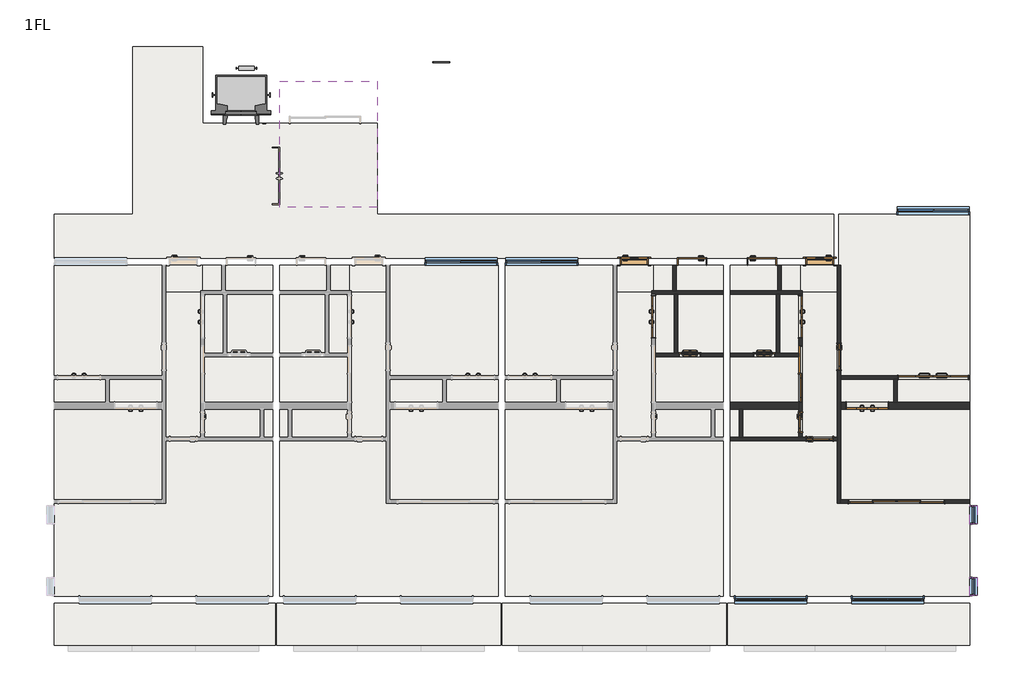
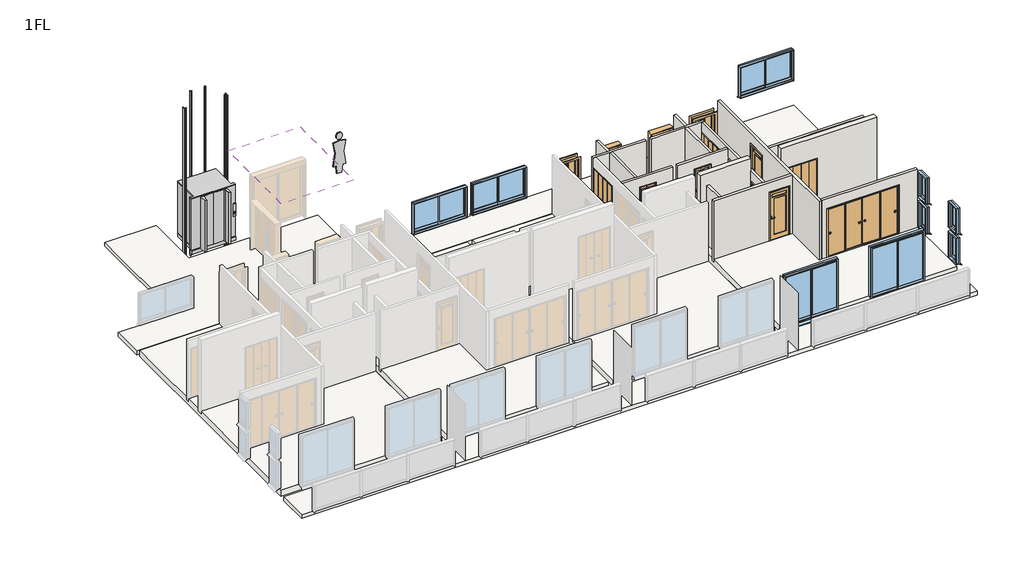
# One storey, part 3 of 3: 17 walls, 15 doors, 14 slabs, 9 windows, 2 proxies, 1 roof.
"""IFC4 building model written with IfcOpenShell, lengths in millimetres."""

from ifc_helpers import new_model, si_unit, frame, origin, place, context, project, spatial, polyline, outline, extrude, faceted_brep, transform, mapped, element, save
from components import entourage_8370d26b, mechanical_equipment_3dd84d69, door_800x2000_a7d1584b, door_800x2000_010bfebf, w1200h2000_6a144d60, w1200h2000_99d19fb3, w1200h2000_ebe1d490, w1600h2000_ca690e72, w2000h2000_5dbb6d6a, w2800h2000_04aa64cd, w600h2000_6a266bef, w600h2000_94bb9c3c, w600h2000_8ea70a65, w800h2000_1d97c4d4, w800h2000_13e9f519, w800h2000_ccb03061, w800h2000_0ab7d42c, window_2000x1200_fc91d1cf, window_2000x2000_f1ff98da, window_450x1000_1cddc73c

model = new_model("IFC4")

# Units and contexts
model_context = context("Model", 3, world=origin())
ifc_project = project(units=[si_unit("LENGTHUNIT", "METRE", prefix="MILLI")], contexts=[model_context])

# Site, building, storey
site = spatial("IfcSite", under=ifc_project)
building = spatial("IfcBuilding", under=site)
storey = spatial("IfcBuildingStorey", under=building, Name="1FL", Elevation=1000.0)

# Proxies
placement = place(None, origin())
entourage_shape = entourage_8370d26b(model_context)
element("IfcBuildingElementProxy", 1, Name="M_RPC 女性 : Cynthia", ObjectType="M_RPC 女性 : Cynthia", at=placement, inside=storey, context=model_context, shape_type="MappedRepresentation", body=[
    mapped(entourage_shape, transform((0.0, 0.0, 1000.0), x_axis=(1.0, 0.0, 0.0), y_axis=(0.0, 1.0, 0.0), z_axis=(0.0, 0.0, 1.0))),
])
mechanical_equipment_shape = mechanical_equipment_3dd84d69(model_context)
element("IfcBuildingElementProxy", 2, Name="エレベーター一般1 : 6人乗", ObjectType="エレベーター一般1 : 6人乗", at=placement, inside=storey, context=model_context, shape_type="MappedRepresentation", body=[
    mapped(mechanical_equipment_shape, transform((-5728.7187246, -1650.1171638, 1000.0), x_axis=(1.0, 0.0, 0.0), y_axis=(0.0, 1.0, 0.0), z_axis=(0.0, 0.0, 1.0))),
])

# Doors
door_800x2000_shape = door_800x2000_a7d1584b(model_context)
element("IfcDoor", 3, ObjectType="片開き3 : 800x2000", at=placement, inside=storey, context=model_context, shape_type="MappedRepresentation", body=[
    mapped(door_800x2000_shape, transform((5521.2812754, -5700.1171638, 1000.0), x_axis=(1.0, 0.0, 0.0), y_axis=(0.0, 1.0, 0.0), z_axis=(0.0, 0.0, 1.0))),
])
door_800x2000_2_shape = door_800x2000_010bfebf(model_context)
element("IfcDoor", 4, ObjectType="片開き3 : 800x2000", at=placement, inside=storey, context=model_context, shape_type="MappedRepresentation", body=[
    mapped(door_800x2000_2_shape, transform((10821.2812754, -5700.1171638, 1000.0), x_axis=(-1.0, 0.0, 0.0), y_axis=(0.0, -1.0, 0.0), z_axis=(0.0, 0.0, 1.0))),
])
w1200h2000_shape = w1200h2000_6a144d60(model_context)
element("IfcDoor", 5, ObjectType="木製折戸 : w1200h2000", at=placement, inside=storey, context=model_context, shape_type="MappedRepresentation", body=[
    mapped(w1200h2000_shape, transform((6071.2812754, -7280.1171638, 1100.0), x_axis=(0.0, 1.0, 0.0), y_axis=(-1.0, 0.0, 0.0), z_axis=(0.0, 0.0, 1.0))),
])
w1200h2000_2_shape = w1200h2000_99d19fb3(model_context)
element("IfcDoor", 6, ObjectType="木製折戸 : w1200h2000", at=placement, inside=storey, context=model_context, shape_type="MappedRepresentation", body=[
    mapped(w1200h2000_2_shape, transform((10271.2812754, -7280.1171638, 1100.0), x_axis=(0.0, 1.0, 0.0), y_axis=(-1.0, 0.0, 0.0), z_axis=(0.0, 0.0, 1.0))),
])
w1200h2000_3_shape = w1200h2000_ebe1d490(model_context)
element("IfcDoor", 7, ObjectType="木製折戸 : w1200h2000", at=placement, inside=storey, context=model_context, shape_type="MappedRepresentation", body=[
    mapped(w1200h2000_3_shape, transform((12183.7812754, -9820.1171638, 1100.0), x_axis=(1.0, 0.0, 0.0), y_axis=(0.0, 1.0, 0.0), z_axis=(0.0, 0.0, 1.0))),
])
w1600h2000_shape = w1600h2000_ca690e72(model_context)
element("IfcDoor", 8, ObjectType="片引戸CL2017 : w1600h2000", at=placement, inside=storey, context=model_context, shape_type="MappedRepresentation", body=[
    mapped(w1600h2000_shape, transform((10271.2812754, -8920.1171638, 1100.0), x_axis=(0.0, -1.0, 0.0), y_axis=(1.0, 0.0, 0.0), z_axis=(0.0, 0.0, 1.0))),
])
w2000h2000_shape = w2000h2000_5dbb6d6a(model_context)
element("IfcDoor", 9, ObjectType="木製折戸 : w2000h2000", at=placement, inside=storey, context=model_context, shape_type="MappedRepresentation", body=[
    mapped(w2000h2000_shape, transform((14066.2812754, -9020.1171638, 1100.0), x_axis=(-1.0, 0.0, 0.0), y_axis=(0.0, -1.0, 0.0), z_axis=(0.0, 0.0, 1.0))),
])
w2800h2000_shape = w2800h2000_04aa64cd(model_context)
element("IfcDoor", 10, ObjectType="引違い 4 枚 2 溝_襖 : w2800h2000", at=placement, inside=storey, context=model_context, shape_type="MappedRepresentation", body=[
    mapped(w2800h2000_shape, transform((13026.8167793, -12570.1171638, 1100.0), x_axis=(1.0, 0.0, 0.0), y_axis=(0.0, 1.0, 0.0), z_axis=(0.0, 0.0, 1.0))),
])
w600h2000_shape = w600h2000_6a266bef(model_context)
element("IfcDoor", 11, ObjectType="浴室折戸 : w600h2000", at=placement, inside=storey, context=model_context, shape_type="MappedRepresentation", body=[
    mapped(w600h2000_shape, transform((7111.2812754, -8370.1171638, 1100.0), x_axis=(1.0, 0.0, 0.0), y_axis=(0.0, 1.0, 0.0), z_axis=(0.0, 0.0, 1.0))),
])
w600h2000_2_shape = w600h2000_94bb9c3c(model_context)
element("IfcDoor", 12, ObjectType="浴室折戸 : w600h2000", at=placement, inside=storey, context=model_context, shape_type="MappedRepresentation", body=[
    mapped(w600h2000_2_shape, transform((9231.2812754, -8370.1171638, 1100.0), x_axis=(-1.0, 0.0, 0.0), y_axis=(0.0, -1.0, 0.0), z_axis=(0.0, 0.0, 1.0))),
])
w600h2000_3_shape = w600h2000_8ea70a65(model_context)
element("IfcDoor", 13, ObjectType="片開戸CL2058 : w600h2000", at=placement, inside=storey, context=model_context, shape_type="MappedRepresentation", body=[
    mapped(w600h2000_3_shape, transform((10271.2812754, -10295.1171638, 1100.0), x_axis=(0.0, -1.0, 0.0), y_axis=(1.0, 0.0, 0.0), z_axis=(0.0, 0.0, 1.0))),
])
w800h2000_shape = w800h2000_1d97c4d4(model_context)
element("IfcDoor", 14, ObjectType="片開 : w800h2000", at=placement, inside=storey, context=model_context, shape_type="MappedRepresentation", body=[
    mapped(w800h2000_shape, transform((7171.2812754, -5700.1171638, 1000.0), x_axis=(-1.0, 0.0, 0.0), y_axis=(0.0, -1.0, 0.0), z_axis=(0.0, 0.0, 1.0))),
])
w800h2000_2_shape = w800h2000_13e9f519(model_context)
element("IfcDoor", 15, ObjectType="片開戸CL2058 : w800h2000", at=placement, inside=storey, context=model_context, shape_type="MappedRepresentation", body=[
    mapped(w800h2000_2_shape, transform((10821.2812754, -10770.1171638, 1100.0), x_axis=(1.0, 0.0, 0.0), y_axis=(0.0, 1.0, 0.0), z_axis=(0.0, 0.0, 1.0))),
])
w800h2000_3_shape = w800h2000_ccb03061(model_context)
element("IfcDoor", 16, ObjectType="片開戸CL2058 : w800h2000", at=placement, inside=storey, context=model_context, shape_type="MappedRepresentation", body=[
    mapped(w800h2000_3_shape, transform((11371.2812754, -8420.1171638, 1100.0), x_axis=(0.0, -1.0, 0.0), y_axis=(1.0, 0.0, 0.0), z_axis=(0.0, 0.0, 1.0))),
])
w800h2000_4_shape = w800h2000_0ab7d42c(model_context)
element("IfcDoor", 17, ObjectType="片開 : w800h2000", at=placement, inside=storey, context=model_context, shape_type="MappedRepresentation", body=[
    mapped(w800h2000_4_shape, transform((9171.2812754, -5700.1171638, 1000.0), x_axis=(1.0, 0.0, 0.0), y_axis=(0.0, 1.0, 0.0), z_axis=(0.0, 0.0, 1.0))),
])

# Roof
element("IfcRoof", 18, ObjectType="RC150", at=placement, inside=storey, context=model_context, shape_type="SweptSolid", body=[
    extrude(outline(polyline([(-1828.7187246, -4150.1171638), (-4628.7187246, -4150.1171638), (-4628.7187246, -550.1171638), (-1828.7187246, -550.1171638), (-1828.7187246, -4150.1171638)])), frame((0.0, 0.0, 3850.0), z_axis=(0.0, 0.0, 1.0), x_axis=(1.0, 0.0, 0.0)), (0.0, 0.0, 1.0), 150.0),
])

# Slabs
element("IfcSlab", 19, ObjectType="RC150＋100", at=placement, inside=storey, context=model_context, shape_type="SweptSolid", body=[
    extrude(outline(polyline([(-4828.7187246, -15270.1171638), (-11078.7187246, -15270.1171638), (-11078.7187246, -5800.1171638), (-7928.7187246, -5800.1171638), (-7928.7187246, -6580.1171638), (-6828.7187246, -6580.1171638), (-6828.7187246, -5800.1171638), (-4828.7187246, -5800.1171638), (-4828.7187246, -6580.1171638), (-6188.7187246, -6580.1171638), (-6188.7187246, -8370.1171638), (-4828.7187246, -8370.1171638), (-4828.7187246, -15270.1171638)])), frame((0.0, 0.0, 850.0), z_axis=(0.0, 0.0, 1.0), x_axis=(1.0, 0.0, 0.0)), (0.0, 0.0, 1.0), 250.0),
])
element("IfcSlab", 20, ObjectType="RC150＋100", at=placement, inside=storey, context=model_context, shape_type="SweptSolid", body=[
    extrude(outline(polyline([(-4628.7187246, -15270.1171638), (-4628.7187246, -8370.1171638), (-3268.7187246, -8370.1171638), (-3268.7187246, -6580.1171638), (-4628.7187246, -6580.1171638), (-4628.7187246, -5800.1171638), (-2628.7187246, -5800.1171638), (-2628.7187246, -6580.1171638), (-1528.7187246, -6580.1171638), (-1528.7187246, -5800.1171638), (1621.2812754, -5800.1171638), (1621.2812754, -15270.1171638), (-4628.7187246, -15270.1171638)])), frame((0.0, 0.0, 850.0), z_axis=(0.0, 0.0, 1.0), x_axis=(1.0, 0.0, 0.0)), (0.0, 0.0, 1.0), 250.0),
])
element("IfcSlab", 21, ObjectType="RC150＋100", at=placement, inside=storey, context=model_context, shape_type="SweptSolid", body=[
    extrude(outline(polyline([(8071.2812754, -15270.1171638), (1821.2812754, -15270.1171638), (1821.2812754, -5800.1171638), (4971.2812754, -5800.1171638), (4971.2812754, -6580.1171638), (6071.2812754, -6580.1171638), (6071.2812754, -5800.1171638), (8071.2812754, -5800.1171638), (8071.2812754, -6580.1171638), (6711.2812754, -6580.1171638), (6711.2812754, -8370.1171638), (8071.2812754, -8370.1171638), (8071.2812754, -15270.1171638)])), frame((0.0, 0.0, 850.0), z_axis=(0.0, 0.0, 1.0), x_axis=(1.0, 0.0, 0.0)), (0.0, 0.0, 1.0), 250.0),
])
element("IfcSlab", 22, ObjectType="RC150＋100", at=placement, inside=storey, context=model_context, shape_type="SweptSolid", body=[
    extrude(outline(polyline([(8271.2812754, -15270.1171638), (8271.2812754, -8370.1171638), (9631.2812754, -8370.1171638), (9631.2812754, -6580.1171638), (8271.2812754, -6580.1171638), (8271.2812754, -5800.1171638), (10271.2812754, -5800.1171638), (10271.2812754, -6580.1171638), (11371.2812754, -6580.1171638), (11371.2812754, -4350.1171638), (15121.2812754, -4350.1171638), (15121.2812754, -15270.1171638), (8271.2812754, -15270.1171638)])), frame((0.0, 0.0, 850.0), z_axis=(0.0, 0.0, 1.0), x_axis=(1.0, 0.0, 0.0)), (0.0, 0.0, 1.0), 250.0),
])
element("IfcSlab", 23, ObjectType="RC150", at=placement, inside=storey, context=model_context, shape_type="SweptSolid", body=[
    extrude(outline(polyline([(-4828.7187246, -8370.1171638), (-6188.7187246, -8370.1171638), (-6188.7187246, -6580.1171638), (-4828.7187246, -6580.1171638), (-4828.7187246, -8370.1171638)])), frame((0.0, 0.0, 850.0), z_axis=(0.0, 0.0, 1.0), x_axis=(1.0, 0.0, 0.0)), (0.0, 0.0, 1.0), 150.0),
])
element("IfcSlab", 24, ObjectType="RC150", at=placement, inside=storey, context=model_context, shape_type="SweptSolid", body=[
    extrude(outline(polyline([(-6828.7187246, -6580.1171638), (-7928.7187246, -6580.1171638), (-7928.7187246, -5800.1171638), (-6828.7187246, -5800.1171638), (-6828.7187246, -6580.1171638)])), frame((0.0, 0.0, 800.0), z_axis=(0.0, 0.0, 1.0), x_axis=(1.0, 0.0, 0.0)), (0.0, 0.0, 1.0), 150.0),
])
element("IfcSlab", 25, ObjectType="RC150", at=placement, inside=storey, context=model_context, shape_type="SweptSolid", body=[
    extrude(outline(polyline([(-4628.7187246, -8370.1171638), (-4628.7187246, -6580.1171638), (-3268.7187246, -6580.1171638), (-3268.7187246, -8370.1171638), (-4628.7187246, -8370.1171638)])), frame((0.0, 0.0, 850.0), z_axis=(0.0, 0.0, 1.0), x_axis=(1.0, 0.0, 0.0)), (0.0, 0.0, 1.0), 150.0),
])
element("IfcSlab", 26, ObjectType="RC150", at=placement, inside=storey, context=model_context, shape_type="SweptSolid", body=[
    extrude(outline(polyline([(-2628.7187246, -6580.1171638), (-2628.7187246, -5800.1171638), (-1528.7187246, -5800.1171638), (-1528.7187246, -6580.1171638), (-2628.7187246, -6580.1171638)])), frame((0.0, 0.0, 800.0), z_axis=(0.0, 0.0, 1.0), x_axis=(1.0, 0.0, 0.0)), (0.0, 0.0, 1.0), 150.0),
])
element("IfcSlab", 27, ObjectType="RC150", at=placement, inside=storey, context=model_context, shape_type="SweptSolid", body=[
    extrude(outline(polyline([(8071.2812754, -8370.1171638), (6711.2812754, -8370.1171638), (6711.2812754, -6580.1171638), (8071.2812754, -6580.1171638), (8071.2812754, -8370.1171638)])), frame((0.0, 0.0, 850.0), z_axis=(0.0, 0.0, 1.0), x_axis=(1.0, 0.0, 0.0)), (0.0, 0.0, 1.0), 150.0),
])
element("IfcSlab", 28, ObjectType="RC150", at=placement, inside=storey, context=model_context, shape_type="SweptSolid", body=[
    extrude(outline(polyline([(6071.2812754, -6580.1171638), (4971.2812754, -6580.1171638), (4971.2812754, -5800.1171638), (6071.2812754, -5800.1171638), (6071.2812754, -6580.1171638)])), frame((0.0, 0.0, 800.0), z_axis=(0.0, 0.0, 1.0), x_axis=(1.0, 0.0, 0.0)), (0.0, 0.0, 1.0), 150.0),
])
element("IfcSlab", 29, ObjectType="RC150", at=placement, inside=storey, context=model_context, shape_type="SweptSolid", body=[
    extrude(outline(polyline([(8271.2812754, -8370.1171638), (8271.2812754, -6580.1171638), (9631.2812754, -6580.1171638), (9631.2812754, -8370.1171638), (8271.2812754, -8370.1171638)])), frame((0.0, 0.0, 850.0), z_axis=(0.0, 0.0, 1.0), x_axis=(1.0, 0.0, 0.0)), (0.0, 0.0, 1.0), 150.0),
])
element("IfcSlab", 30, ObjectType="RC150", at=placement, inside=storey, context=model_context, shape_type="SweptSolid", body=[
    extrude(outline(polyline([(10271.2812754, -6580.1171638), (10271.2812754, -5800.1171638), (11371.2812754, -5800.1171638), (11371.2812754, -6580.1171638), (10271.2812754, -6580.1171638)])), frame((0.0, 0.0, 800.0), z_axis=(0.0, 0.0, 1.0), x_axis=(1.0, 0.0, 0.0)), (0.0, 0.0, 1.0), 150.0),
])
element("IfcSlab", 31, ObjectType="RC150", at=placement, inside=storey, context=model_context, shape_type="SweptSolid", body=[
    extrude(outline(polyline([(-8828.7187246, -4350.1171638), (-8828.7187246, 449.8828362), (-6828.7187246, 449.8828362), (-6828.7187246, -1750.1171638), (-1828.7187246, -1750.1171638), (-1828.7187246, -4350.1171638), (11221.2812754, -4350.1171638), (11221.2812754, -5600.1171638), (-11078.7187246, -5600.1171638), (-11078.7187246, -4350.1171638), (-8828.7187246, -4350.1171638)])), frame((0.0, 0.0, 800.0), z_axis=(0.0, 0.0, 1.0), x_axis=(1.0, 0.0, 0.0)), (0.0, 0.0, 1.0), 150.0),
])
element("IfcSlab", 32, ObjectType="RC150", at=placement, inside=storey, context=model_context, shape_type="SweptSolid", body=[
    extrude(outline(polyline([(15121.2812754, -15470.1171638), (15121.2812754, -16670.1171638), (-11078.7187246, -16670.1171638), (-11078.7187246, -15470.1171638), (15121.2812754, -15470.1171638)])), frame((0.0, 0.0, 800.0), z_axis=(0.0, 0.0, 1.0), x_axis=(1.0, 0.0, 0.0)), (0.0, 0.0, 1.0), 150.0),
])

# Walls
element("IfcWall", 33, ObjectType="(R)RC200", at=placement, inside=storey, context=model_context, shape_type="Brep", body=[
    faceted_brep([(15121.2812754, -9720.1171638, 1000.0), (13046.2812754, -9720.1171638, 1000.0), (12946.2812754, -9720.1171638, 1000.0), (11421.2812754, -9720.1171638, 1000.0), (11421.2812754, -9720.1171638, 4000.0), (15121.2812754, -9720.1171638, 4000.0), (12803.7812754, -9720.1171638, 3120.0), (11563.7812754, -9720.1171638, 3120.0), (11563.7812754, -9720.1171638, 1100.0), (12803.7812754, -9720.1171638, 1100.0), (15121.2812754, -9920.1171638, 1000.0), (15121.2812754, -9920.1171638, 4000.0), (11421.2812754, -9920.1171638, 4000.0), (11421.2812754, -9920.1171638, 1000.0), (12803.7812754, -9920.1171638, 3120.0), (12803.7812754, -9920.1171638, 1100.0), (11563.7812754, -9920.1171638, 1100.0), (11563.7812754, -9920.1171638, 3120.0)], [[[0, 1, 2, 3, 4, 5], [6, 7, 8, 9]], [[10, 11, 12, 13], [14, 15, 16, 17]], [[3, 2, 1, 0, 10, 13]], [[5, 4, 12, 11]], [[4, 3, 13, 12]], [[15, 14, 6, 9]], [[16, 15, 9, 8]], [[17, 16, 8, 7]], [[14, 17, 7, 6]], [[0, 5, 11, 10]]]),
])
element("IfcWall", 34, ObjectType="(R)RC200", at=placement, inside=storey, context=model_context, shape_type="Brep", body=[
    faceted_brep([(10221.2812754, -9720.1171638, 1000.0), (8271.2812754, -9720.1171638, 1000.0), (8271.2812754, -9720.1171638, 4000.0), (10221.2812754, -9720.1171638, 4000.0), (10221.2812754, -9920.1171638, 1000.0), (10221.2812754, -9920.1171638, 4000.0), (8271.2812754, -9920.1171638, 4000.0), (8271.2812754, -9920.1171638, 1000.0), (8521.2812754, -9920.1171638, 1000.0), (8621.2812754, -9920.1171638, 1000.0)], [[[0, 1, 2, 3]], [[4, 5, 6, 7, 8, 9]], [[1, 0, 4, 9, 8, 7]], [[3, 2, 6, 5]], [[0, 3, 5, 4]], [[2, 1, 7, 6]]]),
])
element("IfcWall", 35, ObjectType="(L1)LGS100", at=placement, inside=storey, context=model_context, shape_type="Brep", body=[
    faceted_brep([(6121.2812754, -8420.1171638, 1000.0), (8071.2812754, -8420.1171638, 1000.0), (8071.2812754, -8420.1171638, 3500.0), (6121.2812754, -8420.1171638, 3500.0), (7431.2812754, -8420.1171638, 3120.0), (7431.2812754, -8420.1171638, 1100.0), (6791.2812754, -8420.1171638, 1100.0), (6791.2812754, -8420.1171638, 3120.0), (6121.2812754, -8320.1171638, 1000.0), (6121.2812754, -8320.1171638, 3500.0), (6661.2812754, -8320.1171638, 3500.0), (6761.2812754, -8320.1171638, 3500.0), (8071.2812754, -8320.1171638, 3500.0), (8071.2812754, -8320.1171638, 1000.0), (6761.2812754, -8320.1171638, 1000.0), (6661.2812754, -8320.1171638, 1000.0), (7431.2812754, -8320.1171638, 3120.0), (6791.2812754, -8320.1171638, 3120.0), (6791.2812754, -8320.1171638, 1100.0), (7431.2812754, -8320.1171638, 1100.0)], [[[0, 1, 2, 3], [4, 5, 6, 7]], [[8, 9, 10, 11, 12, 13, 14, 15], [16, 17, 18, 19]], [[1, 0, 8, 15, 14, 13]], [[3, 2, 12, 11, 10, 9]], [[0, 3, 9, 8]], [[5, 4, 16, 19]], [[6, 5, 19, 18]], [[7, 6, 18, 17]], [[4, 7, 17, 16]], [[2, 1, 13, 12]]]),
])
element("IfcWall", 36, ObjectType="(L1)LGS100", at=placement, inside=storey, context=model_context, shape_type="Brep", body=[
    faceted_brep([(6021.2812754, -6630.1171638, 1000.0), (6121.2812754, -6630.1171638, 1000.0), (6661.2812754, -6630.1171638, 1000.0), (6761.2812754, -6630.1171638, 1000.0), (8071.2812754, -6630.1171638, 1000.0), (8071.2812754, -6630.1171638, 3500.0), (6761.2812754, -6630.1171638, 3500.0), (6661.2812754, -6630.1171638, 3500.0), (6121.2812754, -6630.1171638, 3500.0), (6021.2812754, -6630.1171638, 3500.0), (6021.2812754, -6530.1171638, 1000.0), (6021.2812754, -6530.1171638, 3500.0), (6621.2812754, -6530.1171638, 3500.0), (6721.2812754, -6530.1171638, 3500.0), (8071.2812754, -6530.1171638, 3500.0), (8071.2812754, -6530.1171638, 1000.0), (6721.2812754, -6530.1171638, 1000.0), (6621.2812754, -6530.1171638, 1000.0)], [[[0, 1, 2, 3, 4, 5, 6, 7, 8, 9]], [[10, 11, 12, 13, 14, 15, 16, 17]], [[4, 3, 2, 1, 0, 10, 17, 16, 15]], [[9, 8, 7, 6, 5, 14, 13, 12, 11]], [[0, 9, 11, 10]], [[5, 4, 15, 14]]]),
])
element("IfcWall", 37, ObjectType="(L1)LGS100", at=placement, inside=storey, context=model_context, shape_type="SweptSolid", body=[
    extrude(outline(polyline([(6721.2812754, -5800.1171638), (6721.2812754, -6530.1171638), (6621.2812754, -6530.1171638), (6621.2812754, -5800.1171638), (6721.2812754, -5800.1171638)])), frame((0.0, 0.0, 1000.0), z_axis=(0.0, 0.0, 1.0), x_axis=(1.0, 0.0, 0.0)), (0.0, 0.0, 1.0), 2500.0),
])
element("IfcWall", 38, ObjectType="(L1)LGS100", at=placement, inside=storey, context=model_context, shape_type="SweptSolid", body=[
    extrude(outline(polyline([(6761.2812754, -6630.1171638), (6761.2812754, -8320.1171638), (6661.2812754, -8320.1171638), (6661.2812754, -6630.1171638), (6761.2812754, -6630.1171638)])), frame((0.0, 0.0, 1000.0), z_axis=(0.0, 0.0, 1.0), x_axis=(1.0, 0.0, 0.0)), (0.0, 0.0, 1.0), 2500.0),
])
element("IfcWall", 39, ObjectType="(L1)LGS100", at=placement, inside=storey, context=model_context, shape_type="Brep", body=[
    faceted_brep([(15121.2812754, -8970.1171638, 1000.0), (11421.2812754, -8970.1171638, 1000.0), (11421.2812754, -8970.1171638, 3500.0), (15121.2812754, -8970.1171638, 3500.0), (13046.2812754, -8970.1171638, 3120.0), (13046.2812754, -8970.1171638, 1100.0), (15086.2812754, -8970.1171638, 1100.0), (15086.2812754, -8970.1171638, 3120.0), (11421.2812754, -9070.1171638, 1000.0), (12946.2812754, -9070.1171638, 1000.0), (13046.2812754, -9070.1171638, 1000.0), (15121.2812754, -9070.1171638, 1000.0), (15121.2812754, -9070.1171638, 3500.0), (13046.2812754, -9070.1171638, 3500.0), (12946.2812754, -9070.1171638, 3500.0), (11421.2812754, -9070.1171638, 3500.0), (13046.2812754, -9070.1171638, 1100.0), (13046.2812754, -9070.1171638, 3120.0), (15086.2812754, -9070.1171638, 3120.0), (15086.2812754, -9070.1171638, 1100.0)], [[[0, 1, 2, 3], [4, 5, 6, 7]], [[8, 9, 10, 11, 12, 13, 14, 15], [16, 17, 18, 19]], [[1, 0, 11, 10, 9, 8]], [[3, 2, 15, 14, 13, 12]], [[2, 1, 8, 15]], [[4, 17, 16, 5]], [[5, 16, 19, 6]], [[17, 4, 7, 18]], [[18, 7, 6, 19]], [[0, 3, 12, 11]]]),
])
element("IfcWall", 40, ObjectType="(L1)LGS100", at=placement, inside=storey, context=model_context, shape_type="SweptSolid", body=[
    extrude(outline(polyline([(13046.2812754, -9070.1171638), (13046.2812754, -9720.1171638), (12946.2812754, -9720.1171638), (12946.2812754, -9070.1171638), (13046.2812754, -9070.1171638)])), frame((0.0, 0.0, 1000.0), z_axis=(0.0, 0.0, 1.0), x_axis=(1.0, 0.0, 0.0)), (0.0, 0.0, 1.0), 2500.0),
])
element("IfcWall", 41, ObjectType="(L1)LGS100", at=placement, inside=storey, context=model_context, shape_type="Brep", body=[
    faceted_brep([(11421.2812754, -12620.1171638, 1000.0), (11421.2812754, -12520.1171638, 1000.0), (11421.2812754, -9920.1171638, 1000.0), (11421.2812754, -9720.1171638, 1000.0), (11421.2812754, -9070.1171638, 1000.0), (11421.2812754, -8970.1171638, 1000.0), (11421.2812754, -5800.1171638, 1000.0), (11421.2812754, -5800.1171638, 3500.0), (11421.2812754, -8970.1171638, 3500.0), (11421.2812754, -9070.1171638, 3500.0), (11421.2812754, -12520.1171638, 3500.0), (11421.2812754, -12620.1171638, 3500.0), (11421.2812754, -8820.1171638, 1100.0), (11421.2812754, -8820.1171638, 3100.0), (11421.2812754, -8020.1171638, 3100.0), (11421.2812754, -8020.1171638, 1100.0), (11321.2812754, -12620.1171638, 1000.0), (11321.2812754, -12620.1171638, 3500.0), (11321.2812754, -10820.1171638, 3500.0), (11321.2812754, -10720.1171638, 3500.0), (11321.2812754, -5800.1171638, 3500.0), (11321.2812754, -5800.1171638, 1000.0), (11321.2812754, -10720.1171638, 1000.0), (11321.2812754, -10820.1171638, 1000.0), (11321.2812754, -8820.1171638, 1100.0), (11321.2812754, -8020.1171638, 1100.0), (11321.2812754, -8020.1171638, 3100.0), (11321.2812754, -8820.1171638, 3100.0)], [[[0, 1, 2, 3, 4, 5, 6, 7, 8, 9, 10, 11], [12, 13, 14, 15]], [[16, 17, 18, 19, 20, 21, 22, 23], [24, 25, 26, 27]], [[6, 5, 4, 3, 2, 1, 0, 16, 23, 22, 21]], [[11, 10, 9, 8, 7, 20, 19, 18, 17]], [[0, 11, 17, 16]], [[13, 12, 24, 27]], [[14, 13, 27, 26]], [[15, 14, 26, 25]], [[12, 15, 25, 24]], [[7, 6, 21, 20]]]),
])
element("IfcWall", 42, ObjectType="(L1)LGS100", at=placement, inside=storey, context=model_context, shape_type="Brep", body=[
    faceted_brep([(10221.2812754, -8320.1171638, 1000.0), (9681.2812754, -8320.1171638, 1000.0), (9581.2812754, -8320.1171638, 1000.0), (8271.2812754, -8320.1171638, 1000.0), (8271.2812754, -8320.1171638, 3500.0), (9581.2812754, -8320.1171638, 3500.0), (9681.2812754, -8320.1171638, 3500.0), (10221.2812754, -8320.1171638, 3500.0), (8911.2812754, -8320.1171638, 3120.0), (8911.2812754, -8320.1171638, 1100.0), (9551.2812754, -8320.1171638, 1100.0), (9551.2812754, -8320.1171638, 3120.0), (10221.2812754, -8420.1171638, 1000.0), (10221.2812754, -8420.1171638, 3500.0), (8271.2812754, -8420.1171638, 3500.0), (8271.2812754, -8420.1171638, 1000.0), (8911.2812754, -8420.1171638, 3120.0), (9551.2812754, -8420.1171638, 3120.0), (9551.2812754, -8420.1171638, 1100.0), (8911.2812754, -8420.1171638, 1100.0)], [[[0, 1, 2, 3, 4, 5, 6, 7], [8, 9, 10, 11]], [[12, 13, 14, 15], [16, 17, 18, 19]], [[3, 2, 1, 0, 12, 15]], [[7, 6, 5, 4, 14, 13]], [[0, 7, 13, 12]], [[9, 8, 16, 19]], [[10, 9, 19, 18]], [[11, 10, 18, 17]], [[8, 11, 17, 16]], [[4, 3, 15, 14]]]),
])
element("IfcWall", 43, ObjectType="(L1)LGS100", at=placement, inside=storey, context=model_context, shape_type="Brep", body=[
    faceted_brep([(10321.2812754, -10720.1171638, 1000.0), (10321.2812754, -6630.1171638, 1000.0), (10321.2812754, -6630.1171638, 3500.0), (10321.2812754, -10720.1171638, 3500.0), (10321.2812754, -10595.1171638, 1100.0), (10321.2812754, -10595.1171638, 3100.0), (10321.2812754, -9995.1171638, 3100.0), (10321.2812754, -9995.1171638, 1100.0), (10321.2812754, -6660.1171638, 1100.0), (10321.2812754, -7900.1171638, 1100.0), (10321.2812754, -7900.1171638, 3120.0), (10321.2812754, -6660.1171638, 3120.0), (10321.2812754, -9745.1171638, 1100.0), (10321.2812754, -9745.1171638, 3140.0), (10321.2812754, -8095.1171638, 3140.0), (10321.2812754, -8095.1171638, 1100.0), (10221.2812754, -6630.1171638, 1000.0), (10221.2812754, -8320.1171638, 1000.0), (10221.2812754, -8420.1171638, 1000.0), (10221.2812754, -9720.1171638, 1000.0), (10221.2812754, -9920.1171638, 1000.0), (10221.2812754, -10720.1171638, 1000.0), (10221.2812754, -10720.1171638, 3500.0), (10221.2812754, -8420.1171638, 3500.0), (10221.2812754, -8320.1171638, 3500.0), (10221.2812754, -6630.1171638, 3500.0), (10221.2812754, -10595.1171638, 1100.0), (10221.2812754, -9995.1171638, 1100.0), (10221.2812754, -9995.1171638, 3100.0), (10221.2812754, -10595.1171638, 3100.0), (10221.2812754, -7900.1171638, 1100.0), (10221.2812754, -6660.1171638, 1100.0), (10221.2812754, -6660.1171638, 3120.0), (10221.2812754, -7900.1171638, 3120.0), (10221.2812754, -9745.1171638, 1100.0), (10221.2812754, -8095.1171638, 1100.0), (10221.2812754, -8095.1171638, 3140.0), (10221.2812754, -9745.1171638, 3140.0)], [[[0, 1, 2, 3], [4, 5, 6, 7], [8, 9, 10, 11], [12, 13, 14, 15]], [[16, 17, 18, 19, 20, 21, 22, 23, 24, 25], [26, 27, 28, 29], [30, 31, 32, 33], [34, 35, 36, 37]], [[1, 0, 21, 20, 19, 18, 17, 16]], [[3, 2, 25, 24, 23, 22]], [[0, 3, 22, 21]], [[2, 1, 16, 25]], [[5, 4, 26, 29]], [[6, 5, 29, 28]], [[7, 6, 28, 27]], [[4, 7, 27, 26]], [[8, 31, 30, 9]], [[9, 30, 33, 10]], [[10, 33, 32, 11]], [[13, 12, 34, 37]], [[14, 13, 37, 36]], [[15, 14, 36, 35]], [[12, 15, 35, 34]], [[31, 8, 11, 32]]]),
])
element("IfcWall", 44, ObjectType="(L1)LGS100", at=placement, inside=storey, context=model_context, shape_type="Brep", body=[
    faceted_brep([(10321.2812754, -6530.1171638, 1000.0), (9721.2812754, -6530.1171638, 1000.0), (9621.2812754, -6530.1171638, 1000.0), (8271.2812754, -6530.1171638, 1000.0), (8271.2812754, -6530.1171638, 3500.0), (9621.2812754, -6530.1171638, 3500.0), (9721.2812754, -6530.1171638, 3500.0), (10321.2812754, -6530.1171638, 3500.0), (10321.2812754, -6630.1171638, 1000.0), (10321.2812754, -6630.1171638, 3500.0), (10221.2812754, -6630.1171638, 3500.0), (9681.2812754, -6630.1171638, 3500.0), (9581.2812754, -6630.1171638, 3500.0), (8271.2812754, -6630.1171638, 3500.0), (8271.2812754, -6630.1171638, 1000.0), (9581.2812754, -6630.1171638, 1000.0), (9681.2812754, -6630.1171638, 1000.0), (10221.2812754, -6630.1171638, 1000.0)], [[[0, 1, 2, 3, 4, 5, 6, 7]], [[8, 9, 10, 11, 12, 13, 14, 15, 16, 17]], [[3, 2, 1, 0, 8, 17, 16, 15, 14]], [[7, 6, 5, 4, 13, 12, 11, 10, 9]], [[0, 7, 9, 8]], [[4, 3, 14, 13]]]),
])
element("IfcWall", 45, ObjectType="(L1)LGS100", at=placement, inside=storey, context=model_context, shape_type="SweptSolid", body=[
    extrude(outline(polyline([(9721.2812754, -5800.1171638), (9721.2812754, -6530.1171638), (9621.2812754, -6530.1171638), (9621.2812754, -5800.1171638), (9721.2812754, -5800.1171638)])), frame((0.0, 0.0, 1000.0), z_axis=(0.0, 0.0, 1.0), x_axis=(1.0, 0.0, 0.0)), (0.0, 0.0, 1.0), 2500.0),
])
element("IfcWall", 46, ObjectType="(L1)LGS100", at=placement, inside=storey, context=model_context, shape_type="SweptSolid", body=[
    extrude(outline(polyline([(9681.2812754, -6630.1171638), (9681.2812754, -8320.1171638), (9581.2812754, -8320.1171638), (9581.2812754, -6630.1171638), (9681.2812754, -6630.1171638)])), frame((0.0, 0.0, 1000.0), z_axis=(0.0, 0.0, 1.0), x_axis=(1.0, 0.0, 0.0)), (0.0, 0.0, 1.0), 2500.0),
])
element("IfcWall", 47, ObjectType="(L1)LGS100", at=placement, inside=storey, context=model_context, shape_type="SweptSolid", body=[
    extrude(outline(polyline([(8621.2812754, -9920.1171638), (8621.2812754, -10720.1171638), (8521.2812754, -10720.1171638), (8521.2812754, -9920.1171638), (8621.2812754, -9920.1171638)])), frame((0.0, 0.0, 1000.0), z_axis=(0.0, 0.0, 1.0), x_axis=(1.0, 0.0, 0.0)), (0.0, 0.0, 1.0), 2500.0),
])
element("IfcWall", 48, ObjectType="(L1)LGS100", at=placement, inside=storey, context=model_context, shape_type="Brep", body=[
    faceted_brep([(11321.2812754, -10720.1171638, 1000.0), (10321.2812754, -10720.1171638, 1000.0), (10221.2812754, -10720.1171638, 1000.0), (8621.2812754, -10720.1171638, 1000.0), (8521.2812754, -10720.1171638, 1000.0), (8271.2812754, -10720.1171638, 1000.0), (8271.2812754, -10720.1171638, 3500.0), (8521.2812754, -10720.1171638, 3500.0), (8621.2812754, -10720.1171638, 3500.0), (10221.2812754, -10720.1171638, 3500.0), (10321.2812754, -10720.1171638, 3500.0), (11321.2812754, -10720.1171638, 3500.0), (11221.2812754, -10720.1171638, 1100.0), (11221.2812754, -10720.1171638, 3100.0), (10421.2812754, -10720.1171638, 3100.0), (10421.2812754, -10720.1171638, 1100.0), (8271.2812754, -10820.1171638, 1000.0), (11321.2812754, -10820.1171638, 1000.0), (11321.2812754, -10820.1171638, 3500.0), (8271.2812754, -10820.1171638, 3500.0), (11221.2812754, -10820.1171638, 3100.0), (11221.2812754, -10820.1171638, 1100.0), (10421.2812754, -10820.1171638, 1100.0), (10421.2812754, -10820.1171638, 3100.0)], [[[0, 1, 2, 3, 4, 5, 6, 7, 8, 9, 10, 11], [12, 13, 14, 15]], [[16, 17, 18, 19], [20, 21, 22, 23]], [[5, 4, 3, 2, 1, 0, 17, 16]], [[11, 10, 9, 8, 7, 6, 19, 18]], [[0, 11, 18, 17]], [[12, 21, 20, 13]], [[13, 20, 23, 14]], [[14, 23, 22, 15]], [[21, 12, 15, 22]], [[6, 5, 16, 19]]]),
])
element("IfcWall", 49, ObjectType="(L1)LGS100", at=placement, inside=storey, context=model_context, shape_type="SweptSolid", body=[
    extrude(outline(polyline([(1000.0, 15121.2812754), (3500.0, 15121.2812754), (3500.0, 11421.2812754), (1000.0, 11421.2812754), (1000.0, 15121.2812754)]), holes=[polyline([(3100.0, 14421.2812754), (1100.0, 14421.2812754), (1100.0, 11621.2812754), (3100.0, 11621.2812754), (3100.0, 14421.2812754)])]), frame((0.0, -12620.1171638, 0.0), z_axis=(0.0, 1.0, 0.0), x_axis=(0.0, 0.0, 1.0)), (0.0, 0.0, 1.0), 100.0),
])

# Windows
window_2000x1200_shape = window_2000x1200_fc91d1cf(model_context)
element("IfcWindow", 50, ObjectType="鋼製_一般枠_引違い-二枚 : 2000x1200", at=placement, inside=storey, context=model_context, shape_type="MappedRepresentation", body=[
    mapped(window_2000x1200_shape, transform((571.2812754, -5700.1171638, 1250.0), x_axis=(1.0, 0.0, 0.0), y_axis=(0.0, 1.0, 0.0), z_axis=(0.0, 0.0, 1.0))),
])
element("IfcWindow", 51, ObjectType="鋼製_一般枠_引違い-二枚 : 2000x1200", at=placement, inside=storey, context=model_context, shape_type="MappedRepresentation", body=[
    mapped(window_2000x1200_shape, transform((2871.2812754, -5700.1171638, 1250.0), x_axis=(1.0, 0.0, 0.0), y_axis=(0.0, 1.0, 0.0), z_axis=(0.0, 0.0, 1.0))),
])
element("IfcWindow", 52, ObjectType="鋼製_一般枠_引違い-二枚 : 2000x1200", at=placement, inside=storey, context=model_context, shape_type="MappedRepresentation", body=[
    mapped(window_2000x1200_shape, transform((14071.2812754, -4250.1171638, 1250.0), x_axis=(1.0, 0.0, 0.0), y_axis=(0.0, 1.0, 0.0), z_axis=(0.0, 0.0, 1.0))),
])
window_2000x2000_shape = window_2000x2000_f1ff98da(model_context)
element("IfcWindow", 53, ObjectType="鋼製_一般枠_引違い-二枚 : 2000x2000", at=placement, inside=storey, context=model_context, shape_type="MappedRepresentation", body=[
    mapped(window_2000x2000_shape, transform((12771.2812754, -15370.1171638, 200.0), x_axis=(-1.0, 0.0, 0.0), y_axis=(0.0, -1.0, 0.0), z_axis=(0.0, 0.0, 1.0))),
])
element("IfcWindow", 54, ObjectType="鋼製_一般枠_引違い-二枚 : 2000x2000", at=placement, inside=storey, context=model_context, shape_type="MappedRepresentation", body=[
    mapped(window_2000x2000_shape, transform((9421.2812754, -15370.1171638, 200.0), x_axis=(-1.0, 0.0, 0.0), y_axis=(0.0, -1.0, 0.0), z_axis=(0.0, 0.0, 1.0))),
])
window_450x1000_shape = window_450x1000_1cddc73c(model_context)
element("IfcWindow", 55, ObjectType="鋼製_一般枠_嵌殺し : 450x1000", at=placement, inside=storey, context=model_context, shape_type="MappedRepresentation", body=[
    mapped(window_450x1000_shape, transform((15221.2812754, -14995.1171638, 10.0), x_axis=(0.0, 1.0, 0.0), y_axis=(-1.0, 0.0, 0.0), z_axis=(0.0, 0.0, 1.0))),
])
element("IfcWindow", 56, ObjectType="鋼製_一般枠_嵌殺し : 450x1000", at=placement, inside=storey, context=model_context, shape_type="MappedRepresentation", body=[
    mapped(window_450x1000_shape, transform((15221.2812754, -12945.1171638, 10.0), x_axis=(0.0, 1.0, 0.0), y_axis=(-1.0, 0.0, 0.0), z_axis=(0.0, 0.0, 1.0))),
])
element("IfcWindow", 57, ObjectType="鋼製_一般枠_嵌殺し : 450x1000", at=placement, inside=storey, context=model_context, shape_type="MappedRepresentation", body=[
    mapped(window_450x1000_shape, transform((15221.2812754, -14995.1171638, 1230.0), x_axis=(0.0, 1.0, 0.0), y_axis=(-1.0, 0.0, 0.0), z_axis=(0.0, 0.0, 1.0))),
])
element("IfcWindow", 58, ObjectType="鋼製_一般枠_嵌殺し : 450x1000", at=placement, inside=storey, context=model_context, shape_type="MappedRepresentation", body=[
    mapped(window_450x1000_shape, transform((15221.2812754, -12945.1171638, 1230.0), x_axis=(0.0, 1.0, 0.0), y_axis=(-1.0, 0.0, 0.0), z_axis=(0.0, 0.0, 1.0))),
])

save(model, "model.ifc")
